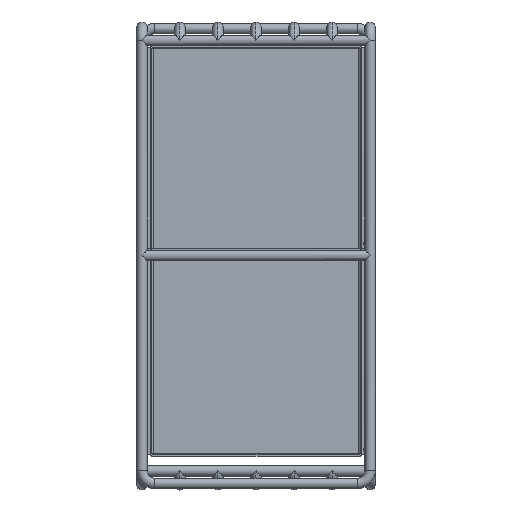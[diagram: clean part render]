
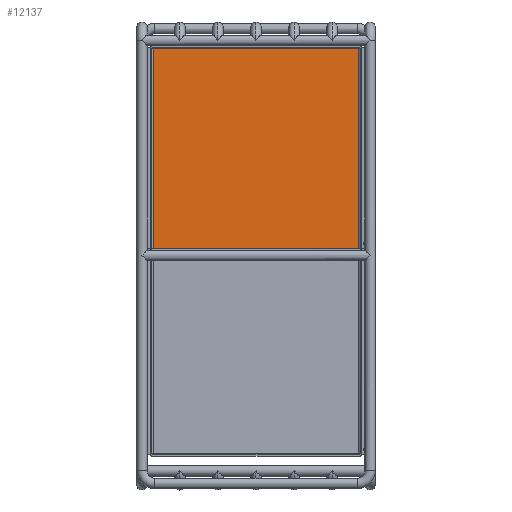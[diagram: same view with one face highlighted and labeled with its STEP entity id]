
A CAD part, top view. The second image highlights one B-rep face of the part: STEP entity #12137.
In plain terms, the highlighted planar face has unit normal (0, 0, 1) as drawn and (0, 1, 0) by its records, which use the part's own axes.
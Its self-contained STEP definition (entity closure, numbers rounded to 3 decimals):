
#11066=DIRECTION('',(-1.,0.,0.));
#11067=VECTOR('',#11066,157.);
#11068=CARTESIAN_POINT('',(78.5,1.2,76.8));
#11069=LINE('',#11068,#11067);
#11073=DIRECTION('',(0.,0.,1.));
#11074=VECTOR('',#11073,153.6);
#11075=CARTESIAN_POINT('',(-78.5,1.2,-76.8));
#11076=LINE('',#11075,#11074);
#11080=DIRECTION('',(1.,0.,0.));
#11081=VECTOR('',#11080,157.);
#11082=CARTESIAN_POINT('',(-78.5,1.2,-76.8));
#11083=LINE('',#11082,#11081);
#11087=DIRECTION('',(0.,0.,1.));
#11088=VECTOR('',#11087,153.6);
#11089=CARTESIAN_POINT('',(78.5,1.2,-76.8));
#11090=LINE('',#11089,#11088);
#11452=CARTESIAN_POINT('',(-78.5,1.2,76.8));
#11453=VERTEX_POINT('',#11452);
#11454=CARTESIAN_POINT('',(78.5,1.2,76.8));
#11455=VERTEX_POINT('',#11454);
#11476=CARTESIAN_POINT('',(78.5,1.2,-76.8));
#11477=VERTEX_POINT('',#11476);
#11478=CARTESIAN_POINT('',(-78.5,1.2,-76.8));
#11479=VERTEX_POINT('',#11478);
#12124=CARTESIAN_POINT('',(79.8,1.2,-78.5));
#12125=DIRECTION('',(0.,1.,0.));
#12126=DIRECTION('',(-1.,0.,0.));
#12127=AXIS2_PLACEMENT_3D('',#12124,#12125,#12126);
#12128=PLANE('',#12127);
#12129=ORIENTED_EDGE('',*,*,#12108,.T.);
#12130=ORIENTED_EDGE('',*,*,#11939,.F.);
#12132=ORIENTED_EDGE('',*,*,#12131,.T.);
#12134=ORIENTED_EDGE('',*,*,#12133,.T.);
#12135=EDGE_LOOP('',(#12129,#12130,#12132,#12134));
#12136=FACE_OUTER_BOUND('',#12135,.F.);
#11939=EDGE_CURVE('',#11479,#11453,#11076,.T.);
#12108=EDGE_CURVE('',#11455,#11453,#11069,.T.);
#12131=EDGE_CURVE('',#11479,#11477,#11083,.T.);
#12133=EDGE_CURVE('',#11477,#11455,#11090,.T.);
#12137=ADVANCED_FACE('',(#12136),#12128,.T.);
